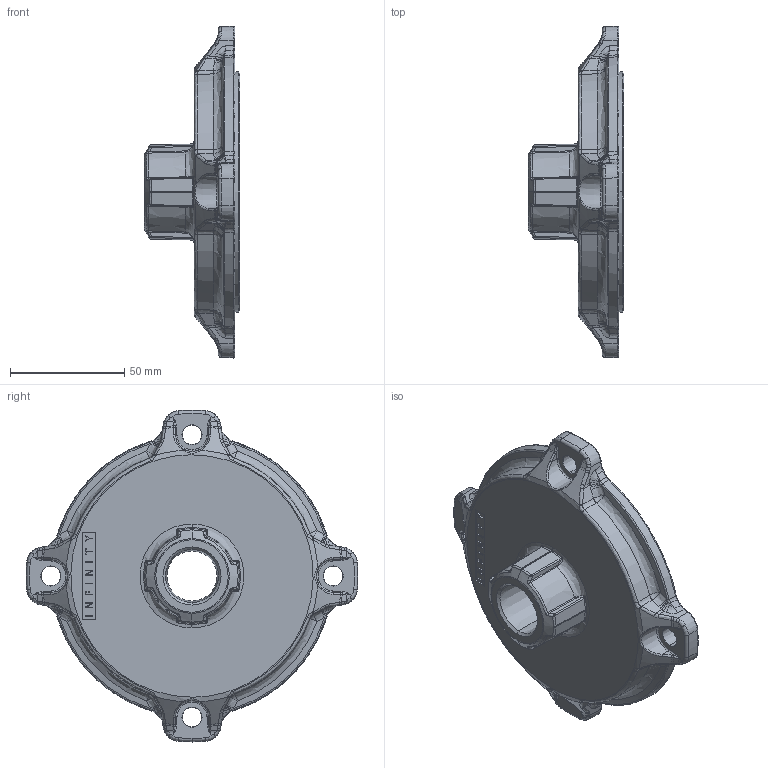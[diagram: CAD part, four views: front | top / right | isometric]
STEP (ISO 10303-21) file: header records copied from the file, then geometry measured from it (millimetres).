
FILE_DESCRIPTION (( 'STEP AP214' ), '1' );
FILE_NAME ('9063000005.STEP', '2014-04-17T08:09:49', ( '' ), ( '' ), 'SwSTEP 2.0', 'SolidWorks 2013', '' );
FILE_SCHEMA (( 'AUTOMOTIVE_DESIGN' ));
Length unit declared in the file: millimetre
Products named in the file (1): 9063000005
Bounding box: 42 x 145.29 x 145.35 mm (x, y, z)
Volume: 220118.4 mm3; surface area: 44112.7 mm2
Topology: 1 solids, 1 shells, 834 faces, 2027 edges, 1165 vertices
Faces by surface type: bspline 551, plane 123, cone 108, cylinder 48, torus 4
Entity records: 46396 total; most frequent: CARTESIAN_POINT 31348, ORIENTED_EDGE 3958, EDGE_CURVE 1979, DIRECTION 1953, VERTEX_POINT 1165, B_SPLINE_CURVE_WITH_KNOTS 986, EDGE_LOOP 862, FACE_OUTER_BOUND 834
